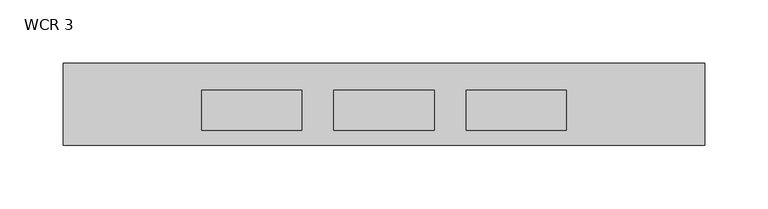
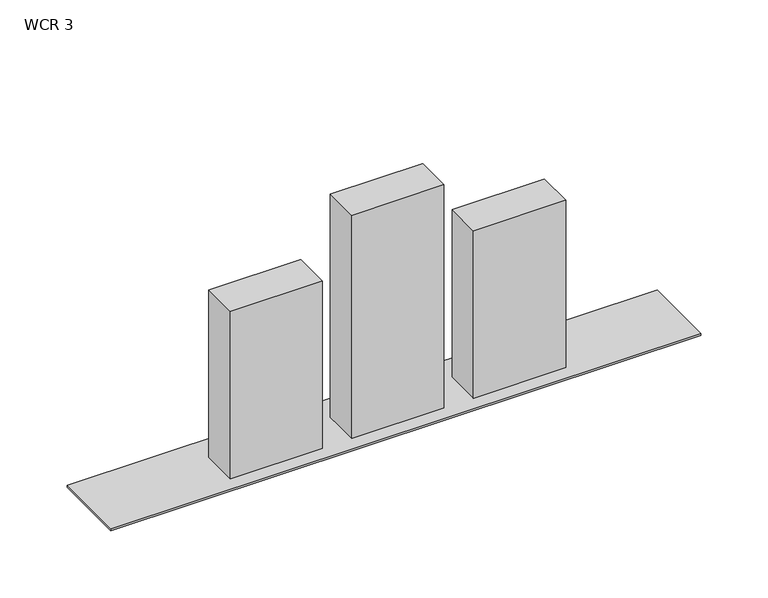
"""IFC4 building model written with IfcOpenShell, lengths in millimetres: proxy geometry, End_Closure-Walkercell-Wiremold-Duct_Stubs : WCR 3."""

from ifc_helpers import new_model, si_unit, frame, origin, origin_with_axes, place, context, project, spatial, polyline, outline, extrude, source, transform, mapped, element, save


def wcr_3_b43005da(model_context):
    return source(origin(), model_context, "Body", "SweptSolid", [
        extrude(outline(polyline([(-65.0875, -15.875), (-144.4625, -15.875), (-144.4625, 15.875), (-65.0875, 15.875), (-65.0875, -15.875)])), frame((0.0, 0.0, 1.778), z_axis=(0.0, 0.0, 1.0), x_axis=(1.0, 0.0, 0.0)), (0.0, 0.0, 1.0), 152.4),
        extrude(outline(polyline([(39.6875, -15.875), (-39.6875, -15.875), (-39.6875, 15.875), (39.6875, 15.875), (39.6875, -15.875)])), frame((0.0, 0.0, 1.778), z_axis=(0.0, 0.0, 1.0), x_axis=(1.0, 0.0, 0.0)), (0.0, 0.0, 1.0), 203.2),
        extrude(outline(polyline([(144.4625, -15.875), (65.0875, -15.875), (65.0875, 15.875), (144.4625, 15.875), (144.4625, -15.875)])), frame((0.0, 0.0, 1.778), z_axis=(0.0, 0.0, 1.0), x_axis=(1.0, 0.0, 0.0)), (0.0, 0.0, 1.0), 152.4),
        extrude(outline(polyline([(254.0, 37.3253), (254.0, -27.7749), (-254.0, -27.7749), (-254.0, 37.3253), (254.0, 37.3253)])), origin_with_axes(), (0.0, 0.0, 1.0), 1.778),
    ])


if __name__ == "__main__":
    model = new_model("IFC4")
    model_context = context("Model", 3, world=origin())
    ifc_project = project(units=[si_unit("LENGTHUNIT", "METRE", prefix="MILLI")], contexts=[model_context])
    site = spatial("IfcSite", under=ifc_project)
    building = spatial("IfcBuilding", under=site)
    placement = place(None, origin())
    wcr_3_shape = wcr_3_b43005da(model_context)
    element("IfcBuildingElementProxy", 1, Name="End_Closure-Walkercell-Wiremold-Duct_Stubs : WCR 3", ObjectType="End_Closure-Walkercell-Wiremold-Duct_Stubs : WCR 3", at=placement, inside=building, context=model_context, shape_type="MappedRepresentation", body=[
        mapped(wcr_3_shape, transform((0.0, 0.0, 0.0), x_axis=(1.0, 0.0, 0.0), y_axis=(0.0, 1.0, 0.0), z_axis=(0.0, 0.0, 1.0))),
    ])
    save(model, "model.ifc")
